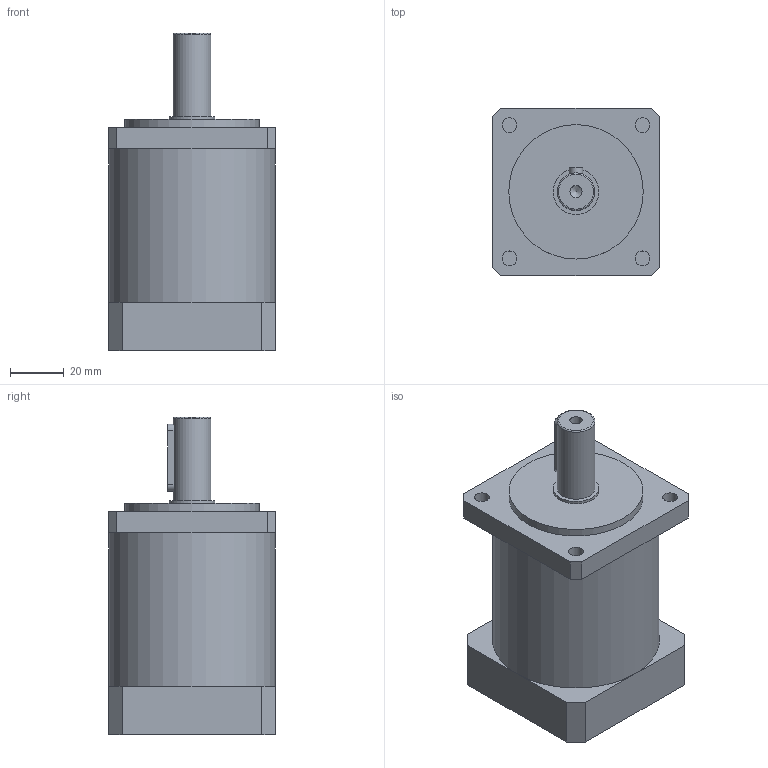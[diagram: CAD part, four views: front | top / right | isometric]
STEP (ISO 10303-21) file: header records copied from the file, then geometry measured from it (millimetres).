
FILE_DESCRIPTION(/* description */ (''),/* implementation_level */ '2;1');
FILE_NAME(/* name */ '62 yijijiansu 6.35 MM.stp',/* time_stamp */ '2018-08-30T11:55:32+08:00',/* author */ (''),/* organization */ (''),/* preprocessor_version */ 'ST-DEVELOPER v11',/* originating_system */ 'SIEMENS UGS NX 6.0',/* authorisation */ '');
FILE_SCHEMA (('CONFIG_CONTROL_DESIGN'));
Length unit declared in the file: millimetre
Products named in the file (1): 62 1ji jiansu ji 1-10
Bounding box: 62 x 62 x 118 mm (x, y, z)
Volume: 273838 mm3; surface area: 31357 mm2
Topology: 2 solids, 2 shells, 60 faces, 141 edges, 91 vertices
Faces by surface type: plane 36, cylinder 18, cone 5, torus 1
Full cylindrical faces by diameter (mm): 3.5 x4, 4.5 x1, 5.5 x4, 6.35 x1, 8 x1, 14 x1, 17 x1, 38.1 x1, 50 x1, 62 x1
Entity records: 1618 total; most frequent: DIRECTION 272, CARTESIAN_POINT 252, ORIENTED_EDGE 214, EDGE_CURVE 107, AXIS2_PLACEMENT_3D 104, EDGE_LOOP 96, VERTEX_POINT 84, FACE_BOUND 74
